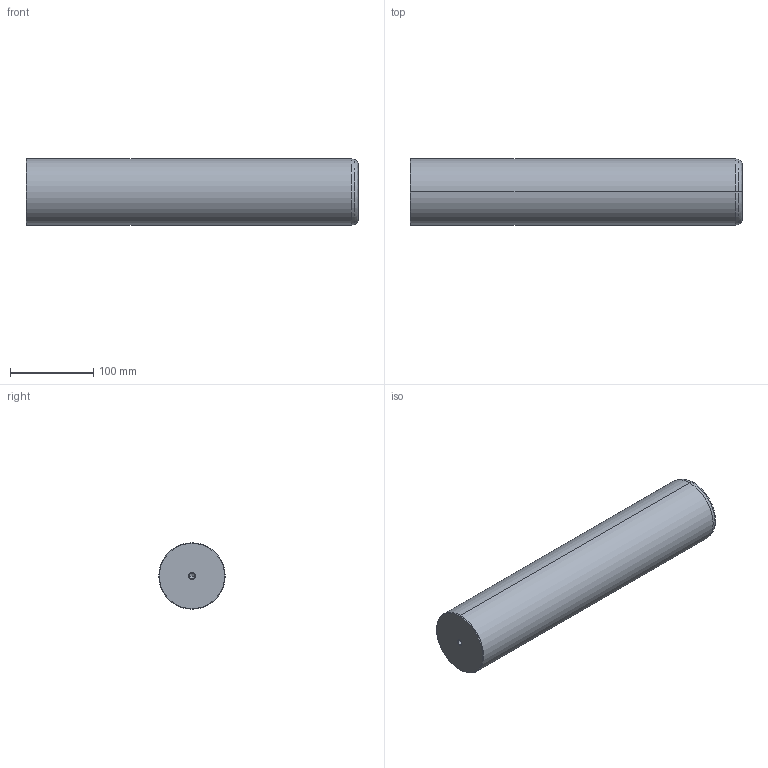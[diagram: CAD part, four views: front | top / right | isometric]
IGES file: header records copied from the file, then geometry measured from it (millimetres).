
Start section: START RECORD GO HERE.
Global section: file name: 720-80x400.igs; native system: DASSAULT SYSTEMES CATIA V5 R20 - www.3ds.com; preprocessor: CATIA Version 5 Release 20 ; author: Utente; organization: NB04-ASUS; date: 20201230.222144; units: millimetre
Bounding box: 400 x 80 x 80 mm (x, y, z)
Surface area: 110689.9 mm2 (no closed solid volume)
Topology: 0 solids, 0 shells, 22 faces, 120 edges, 116 vertices
Faces by surface type: revolution 20, plane 2
